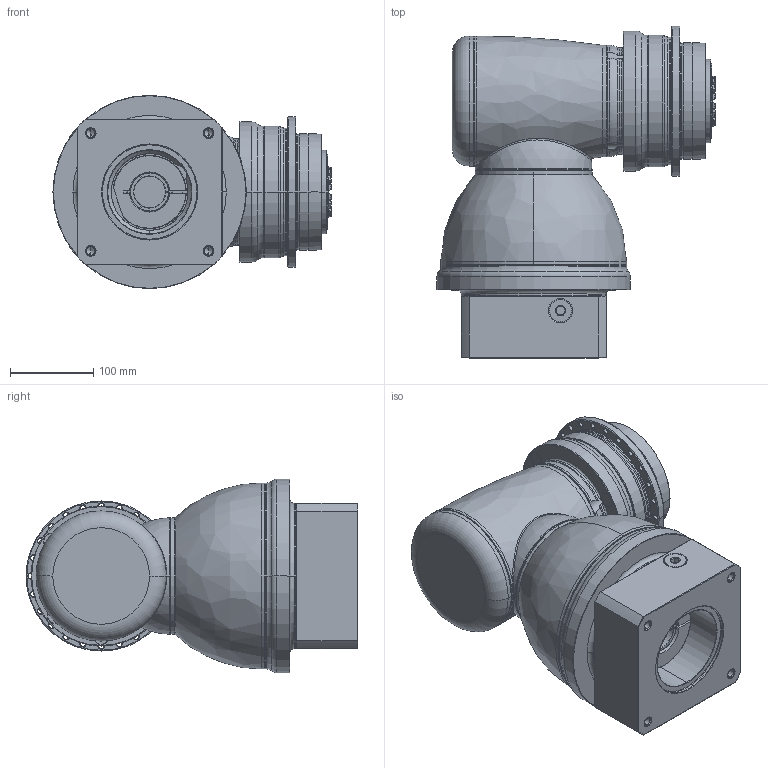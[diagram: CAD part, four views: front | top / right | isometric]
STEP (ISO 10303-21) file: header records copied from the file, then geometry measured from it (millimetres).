
FILE_DESCRIPTION((''),'2;1');
FILE_NAME('APCK140_2ST_SBG_38-P0409910201_ASM','2018-05-18T',('d01226'),(''),'PRO/ENGINEER BY PARAMETRIC TECHNOLOGY CORPORATION, 2008410','PRO/ENGINEER BY PARAMETRIC TECHNOLOGY CORPORATION, 2008410','');
FILE_SCHEMA(('CONFIG_CONTROL_DESIGN'));
Length unit declared in the file: millimetre
Products named in the file (13): P0278501003; P03595D0103; P1211500001; P1802510011; P1018600002; P1365600001; P1007601001; P1318610201; P0409910201; P0503900012; P0912652001; 21711422019; APCK140_2ST_SBG_38-P0409910201_ASM
Assembly tree (12 placements, depth 2):
  APCK140_2ST_SBG_38-P0409910201_ASM
    P0278501003
    P03595D0103
    P1211500001
    P1802510011
    P1018600002
    P1365600001
    P1007601001
    P1318610201
    P0409910201
    P0503900012
    P0912652001
    21711422019
Bounding box: 333.6 x 398 x 232 mm (x, y, z)
Volume: 12141249.6 mm3; surface area: 868812.4 mm2
Topology: 13 solids, 23 shells, 797 faces, 1883 edges, 1156 vertices
Faces by surface type: cylinder 263, cone 230, plane 145, torus 133, bspline 24, sphere 2
Entity records: 30151 total; most frequent: CARTESIAN_POINT 11231, DIRECTION 4241, ORIENTED_EDGE 3696, EDGE_CURVE 1869, AXIS2_PLACEMENT_3D 1854, VERTEX_POINT 1156, CIRCLE 1046, EDGE_LOOP 919
